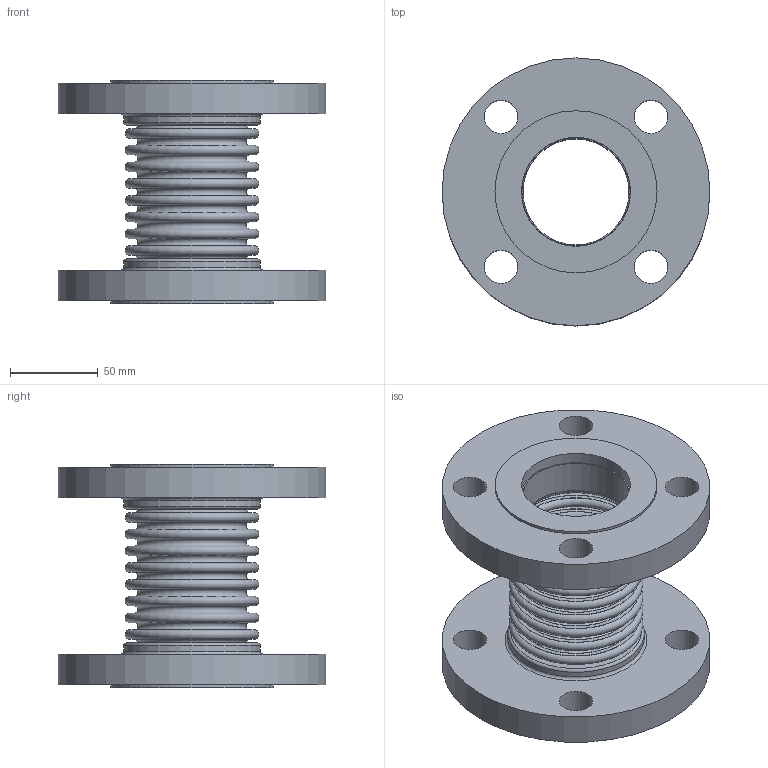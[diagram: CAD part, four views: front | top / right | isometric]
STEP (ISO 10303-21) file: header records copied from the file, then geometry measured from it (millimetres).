
FILE_DESCRIPTION(/* description */ ('EXPANSION JOINT,SINGLE, FLANGED ENDS,2 INCH NOMINAL','CAx-IF Rec.Pracs.---Representation and Presentation of Product Manufacturing Information (PMI)---4.0---2014-10-13'),/* implementation_level */ '2;1');
FILE_NAME(/* name */ 'US-02-8-150S-FLANGED ENDS.stp',/* time_stamp */ '2026-07-31T16:33:51-05:00',/* author */ ('Guadalupe'),/* organization */ (''),/* preprocessor_version */ 'ST-DEVELOPER v20.1',/* originating_system */ 'Autodesk Inventor 2026',/* authorisation */ '');
FILE_SCHEMA (('AP242_MANAGED_MODEL_BASED_3D_ENGINEERING_MIM_LF { 1 0 10303 442 2 1 4 }'));
Length unit declared in the file: inch
Products named in the file (3): 02-150S; 02-150S-02; 02-150S-01
Assembly tree (3 placements, depth 2):
  02-150S
    02-150S-02  x2
    02-150S-01
Bounding box: 152.4 x 152.4 x 127 mm (x, y, z)
Volume: 552259.1 mm3; surface area: 178977.9 mm2
Topology: 5 solids, 5 shells, 104 faces, 174 edges, 116 vertices
Faces by surface type: plane 46, torus 38, cylinder 20
Full cylindrical faces by diameter (mm): 19.05 x8, 60.325 x2, 61.544 x2, 61.976 x2, 77.724 x2, 92.202 x2, 152.4 x2
Entity records: 2402 total; most frequent: DIRECTION 494, CARTESIAN_POINT 353, ORIENTED_EDGE 288, AXIS2_PLACEMENT_3D 241, EDGE_CURVE 144, EDGE_LOOP 140, CIRCLE 132, VERTEX_POINT 96
